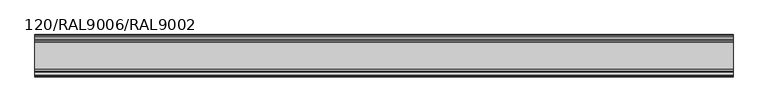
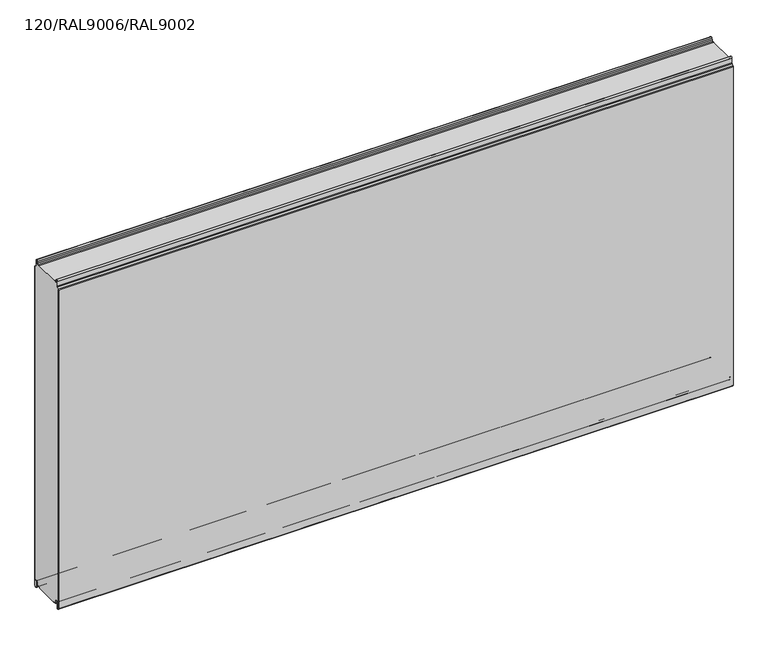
"""IFC4 building model written with IfcOpenShell, lengths in millimetres: plate geometry, TR_C_H_FTV_Panel : 120/RAL9006/RAL9002."""

import ifcopenshell
import ifcopenshell.guid

model = None  # the IFC model being written
_history = None  # IfcOwnerHistory: only IFC2X3 demands one
_inside = {}  # id of a spatial element -> (the spatial element, [elements in it])
_under = {}  # id of a project, library or spatial element -> (it, [spatial elements below it])
_declared = {}  # id of a project -> (the project, [libraries it declares])
_typed = {}  # id of a type object -> (the type object, [elements of that type])
_made_of = {}  # id of a material, layer set ... -> (it, [elements and type objects made of it])


def new_model(schema):
    """Start an empty IFC model of exactly this schema.

    Asked for "IFC4X3", IfcOpenShell would pick the latest addendum, in which some entities
    have other attributes; the version numbers below select the first issue.
    IFC2X3 requires an IfcOwnerHistory on every rooted entity: one is made here for all.
    """
    global model, _history
    if schema == "IFC4X3":
        model = ifcopenshell.file(schema_version=(4, 3, 0, 0))
    else:
        model = ifcopenshell.file(schema=schema)
    _inside.clear()
    _under.clear()
    _declared.clear()
    _typed.clear()
    _made_of.clear()
    _history = None
    if model.schema == "IFC2X3":
        org = make("IfcOrganization", Name="unknown")
        user = make(
            "IfcPersonAndOrganization",
            ThePerson=make("IfcPerson", FamilyName="unknown"),
            TheOrganization=org,
        )
        app = make(
            "IfcApplication",
            ApplicationDeveloper=org,
            Version="unknown",
            ApplicationFullName="unknown",
            ApplicationIdentifier="unknown",
        )
        _history = make(
            "IfcOwnerHistory",
            OwningUser=user,
            OwningApplication=app,
            ChangeAction="ADDED",
            CreationDate=0,
        )
    return model


def make(cls, **values):
    """One entity of the class cls with the attributes given. An attribute that is None is left unset."""
    return model.create_entity(
        cls, **{name: value for name, value in values.items() if value is not None}
    )


def rooted(cls, **values):
    """An entity with a GlobalId (a new one), such as an element, a storey or a relation."""
    return make(cls, GlobalId=ifcopenshell.guid.new(), OwnerHistory=_history, **values)


def si_unit(unit_type, name, prefix=None):
    """IfcSIUnit, for example si_unit("LENGTHUNIT", "METRE", prefix="MILLI")."""
    return make("IfcSIUnit", UnitType=unit_type, Prefix=prefix, Name=name)


def assignment(units):
    """IfcUnitAssignment: the units of a project."""
    return None if units is None else make("IfcUnitAssignment", Units=units)


def point(xyz):
    """IfcCartesianPoint."""
    return None if xyz is None else make("IfcCartesianPoint", Coordinates=xyz)


def direction(xyz):
    """IfcDirection."""
    return None if xyz is None else make("IfcDirection", DirectionRatios=xyz)


def frame(location, z_axis=None, x_axis=None):
    """IfcAxis2Placement3D, a coordinate frame: its origin and axes. An axis left out is left unset."""
    return make(
        "IfcAxis2Placement3D",
        Location=point(location),
        Axis=direction(z_axis),
        RefDirection=direction(x_axis),
    )


def frame_2d(location, x_axis=None):
    """IfcAxis2Placement2D, a coordinate frame in the plane: its origin and x axis."""
    return make(
        "IfcAxis2Placement2D", Location=point(location), RefDirection=direction(x_axis)
    )


def origin():
    """The frame at (0, 0, 0) with its axes left unset."""
    return frame((0.0, 0.0, 0.0))


def place(relative_to, where):
    """IfcLocalPlacement: puts the frame where relative to a parent placement (None: the world)."""
    return make(
        "IfcLocalPlacement", PlacementRelTo=relative_to, RelativePlacement=where
    )


def context(
    kind, dimensions, precision=None, world=None, true_north=None, identifier=None
):
    """IfcGeometricRepresentationContext, for example the 3D "Model" context."""
    return make(
        "IfcGeometricRepresentationContext",
        ContextIdentifier=identifier,
        ContextType=kind,
        CoordinateSpaceDimension=dimensions,
        Precision=precision,
        WorldCoordinateSystem=world,
        TrueNorth=true_north,
    )


def project(units=None, contexts=None):
    """IfcProject with its units and contexts."""
    return rooted(
        "IfcProject",
        Name="project",
        RepresentationContexts=contexts,
        UnitsInContext=assignment(units),
    )


def spatial(cls, under=None, at=None, **own):
    """A site, building, storey or space (cls), placed at a placement, below another one or the project."""
    s = rooted(cls, ObjectPlacement=at, **own)
    if under is not None:
        _under.setdefault(under.id(), (under, []))[1].append(s)
    return s


def polyline(points):
    """IfcPolyline through the points."""
    return make("IfcPolyline", Points=[point(p) for p in points])


def circle_curve(where, radius):
    """IfcCircle in the frame where."""
    return make("IfcCircle", Position=where, Radius=radius)


def trimmed(basis, trim1, trim2, sense, master):
    """IfcTrimmedCurve: the piece of a basis curve between two trims."""
    return make(
        "IfcTrimmedCurve",
        BasisCurve=basis,
        Trim1=trim1,
        Trim2=trim2,
        SenseAgreement=sense,
        MasterRepresentation=master,
    )


def segment(curve, same_sense, transition):
    """IfcCompositeCurveSegment."""
    return make(
        "IfcCompositeCurveSegment",
        Transition=transition,
        SameSense=same_sense,
        ParentCurve=curve,
    )


def composite_curve(segments, self_intersect=None):
    """IfcCompositeCurve: segments joined end to end."""
    return make("IfcCompositeCurve", Segments=segments, SelfIntersect=self_intersect)


def outline(outer, holes=None, kind="AREA"):
    """IfcArbitraryClosedProfileDef: a profile drawn as a closed curve; with holes, ...WithVoids."""
    if holes is None:
        return make("IfcArbitraryClosedProfileDef", ProfileType=kind, OuterCurve=outer)
    return make(
        "IfcArbitraryProfileDefWithVoids",
        ProfileType=kind,
        OuterCurve=outer,
        InnerCurves=holes,
    )


def extrude(swept, where, along, depth):
    """IfcExtrudedAreaSolid: the profile swept, set in the frame where, extruded along a direction by depth."""
    return make(
        "IfcExtrudedAreaSolid",
        SweptArea=swept,
        Position=where,
        ExtrudedDirection=direction(along),
        Depth=depth,
    )


def shape(context_of_items, identifier, shape_type, items):
    """IfcShapeRepresentation: the items that make up one representation, for example the "Body"."""
    return make(
        "IfcShapeRepresentation",
        ContextOfItems=context_of_items,
        RepresentationIdentifier=identifier,
        RepresentationType=shape_type,
        Items=items,
    )


def source(mapping_origin, context_of_items, identifier, shape_type, items):
    """IfcRepresentationMap: a shape defined once, which mapped items show again and again."""
    return make(
        "IfcRepresentationMap",
        MappingOrigin=mapping_origin,
        MappedRepresentation=shape(context_of_items, identifier, shape_type, items),
    )


def transform(
    local_origin,
    x_axis=None,
    y_axis=None,
    z_axis=None,
    scale=None,
    scale2=None,
    scale3=None,
    uniform=True,
):
    """IfcCartesianTransformationOperator3D, or its non-uniform kind. x_axis, y_axis, z_axis: its Axis1, 2, 3."""
    if uniform:
        return make(
            "IfcCartesianTransformationOperator3D",
            Axis1=direction(x_axis),
            Axis2=direction(y_axis),
            LocalOrigin=point(local_origin),
            Scale=scale,
            Axis3=direction(z_axis),
        )
    return make(
        "IfcCartesianTransformationOperator3DnonUniform",
        Axis1=direction(x_axis),
        Axis2=direction(y_axis),
        LocalOrigin=point(local_origin),
        Scale=scale,
        Axis3=direction(z_axis),
        Scale2=scale2,
        Scale3=scale3,
    )


def mapped(mapping_source, mapping_target):
    """IfcMappedItem: shows the shape of a source again, moved by a transform."""
    return make(
        "IfcMappedItem", MappingSource=mapping_source, MappingTarget=mapping_target
    )


def made_of(thing, what):
    """Note that an element or type object is made of a material, layer set ...; save() writes the relation."""
    if what is not None:
        _made_of.setdefault(what.id(), (what, []))[1].append(thing)
    return thing


def element(
    cls,
    number,
    at=None,
    inside=None,
    cuts=None,
    type_object=None,
    material=None,
    context=None,
    identifier="Body",
    shape_type=None,
    held_by="IfcProductDefinitionShape",
    body=None,
    shapes=None,
    **own,
):
    """One element of the class cls, such as IfcWall. Its Tag is "e" and its number.

    at: its placement. inside: the storey or other place that contains it. cuts: it is an
    opening in that element (IfcRelVoidsElement). A single representation is given by context,
    identifier, shape_type and body (its items); several are given by shapes. held_by: the class
    of the entity that holds the representations. save() writes the other relations.
    """
    e = rooted(cls, Tag="e%d" % number, ObjectPlacement=at, **own)
    if body is not None:
        shapes = [shape(context, identifier, shape_type, body)]
    if shapes is not None:
        e.Representation = make(held_by, Representations=shapes)
    if inside is not None:
        _inside.setdefault(inside.id(), (inside, []))[1].append(e)
    if cuts is not None:
        rooted(
            "IfcRelVoidsElement", RelatingBuildingElement=cuts, RelatedOpeningElement=e
        )
    if type_object is not None:
        _typed.setdefault(type_object.id(), (type_object, []))[1].append(e)
    return made_of(e, material)


def aggregate(whole, parts):
    """IfcRelAggregates: a whole, such as a stair, and the parts it consists of."""
    return rooted("IfcRelAggregates", RelatingObject=whole, RelatedObjects=parts)


def save(model, path):
    """Write the relations noted so far, then the file.

    IfcRelAggregates (storeys below a building ...), IfcRelContainedInSpatialStructure (elements
    in a storey), IfcRelDefinesByType, IfcRelAssociatesMaterial and IfcRelDeclares: one each for
    every whole, place, type object, material and project.
    """
    for whole, parts in _under.values():
        aggregate(whole, parts)
    for where, things in _inside.values():
        rooted(
            "IfcRelContainedInSpatialStructure",
            RelatedElements=things,
            RelatingStructure=where,
        )
    for kind, things in _typed.values():
        rooted("IfcRelDefinesByType", RelatedObjects=things, RelatingType=kind)
    for what, things in _made_of.values():
        rooted("IfcRelAssociatesMaterial", RelatedObjects=things, RelatingMaterial=what)
    for by, libraries in _declared.values():
        rooted("IfcRelDeclares", RelatingContext=by, RelatedDefinitions=libraries)
    model.write(path)


def plate_120_ral9006_ral9002_44e4d69d(model_context):
    return source(origin(), model_context, "Body", "SweptSolid", [
        extrude(outline(composite_curve([segment(polyline([(-0.8, 14.4000012), (-9.45, 14.4000012)]), True, "CONTINUOUS"), segment(trimmed(circle_curve(frame_2d((-9.45, 10.1500012)), 4.25), [point((-9.45, 14.4000012))], [point((-13.635433, 10.8880059))], True, "CARTESIAN"), True, "CONTINUOUS"), segment(polyline([(-13.635433, 10.8880059), (-14.7022582, 4.837739)]), True, "CONTINUOUS"), segment(trimmed(circle_curve(frame_2d((-17.6074411, 5.3500012)), 2.95), [point((-14.7022582, 4.837739))], [point((-17.6074411, 2.4000012))], False, "CARTESIAN"), True, "CONTINUOUS"), segment(polyline([(-17.6074411, 2.4000012), (-23.7, 2.4000012), (-23.7, 1.2e-06), (-96.3, 1.2e-06), (-96.3, 2.4000012), (-102.3925589, 2.4000012)]), True, "CONTINUOUS"), segment(trimmed(circle_curve(frame_2d((-102.3925589, 5.3500012)), 2.95), [point((-102.3925589, 2.4000012))], [point((-105.2977418, 4.837739))], False, "CARTESIAN"), True, "CONTINUOUS"), segment(polyline([(-105.2977418, 4.837739), (-106.364567, 10.8880059)]), True, "CONTINUOUS"), segment(trimmed(circle_curve(frame_2d((-110.55, 10.1500012)), 4.25), [point((-106.364567, 10.8880059))], [point((-110.55, 14.4000012))], True, "CARTESIAN"), True, "CONTINUOUS"), segment(polyline([(-110.55, 14.4000012), (-119.2, 14.4000012), (-119.2, 984.3218266)]), True, "CONTINUOUS"), segment(trimmed(circle_curve(frame_2d((-117.0, 984.3218266)), 2.2), [point((-119.2, 984.3218266))], [point((-118.5556349, 985.8774615))], False, "CARTESIAN"), True, "CONTINUOUS"), segment(polyline([(-118.5556349, 985.8774615), (-114.1665476, 990.2665488)]), True, "CONTINUOUS"), segment(trimmed(circle_curve(frame_2d((-116.5, 992.6000012)), 3.3), [point((-114.1665476, 990.2665488))], [point((-113.2, 992.6000012))], True, "CARTESIAN"), True, "CONTINUOUS"), segment(polyline([(-113.2, 992.6000012), (-113.2, 1000.0), (-6.8, 1000.0), (-6.8, 992.6000012)]), True, "CONTINUOUS"), segment(trimmed(circle_curve(frame_2d((-3.5, 992.6000012)), 3.3), [point((-6.8, 992.6000012))], [point((-5.8334524, 990.2665488))], True, "CARTESIAN"), True, "CONTINUOUS"), segment(polyline([(-5.8334524, 990.2665488), (-1.4443651, 985.8774615)]), True, "CONTINUOUS"), segment(trimmed(circle_curve(frame_2d((-3.0, 984.3218266)), 2.2), [point((-1.4443651, 985.8774615))], [point((-0.8, 984.3218266))], False, "CARTESIAN"), True, "CONTINUOUS"), segment(polyline([(-0.8, 984.3218266), (-0.8, 14.4000012)]), True, "CONTINUOUS")], self_intersect=False)), frame((-990.0, 0.0, 0.0), z_axis=(1.0, 0.0, 0.0), x_axis=(0.0, 1.0, 0.0)), (0.0, 0.0, 1.0), 1980.0),
        extrude(outline(composite_curve([segment(polyline([(-21.0, 2.4000012), (-17.6074411, 2.4000012)]), True, "CONTINUOUS"), segment(trimmed(circle_curve(frame_2d((-17.6074411, 5.3500012)), 2.95), [point((-17.6074411, 2.4000012))], [point((-14.7022582, 4.837739))], True, "CARTESIAN"), True, "CONTINUOUS"), segment(polyline([(-14.7022582, 4.837739), (-13.635433, 10.8880059)]), True, "CONTINUOUS"), segment(trimmed(circle_curve(frame_2d((-9.45, 10.1500012)), 4.25), [point((-13.635433, 10.8880059))], [point((-5.2, 10.1500012))], False, "CARTESIAN"), True, "CONTINUOUS"), segment(polyline([(-5.2, 10.1500012), (-5.2, -7.4499988)]), True, "CONTINUOUS"), segment(trimmed(circle_curve(frame_2d((-4.05, -7.4499988)), 1.15), [point((-5.2, -7.4499988))], [point((-3.2368272, -8.2631716))], True, "CARTESIAN"), True, "CONTINUOUS"), segment(polyline([(-3.2368272, -8.2631716), (-1.3711418, -6.3974862)]), True, "CONTINUOUS"), segment(trimmed(circle_curve(frame_2d((-2.75, -5.018628)), 1.95), [point((-1.3711418, -6.3974862))], [point((-0.8, -5.018628))], True, "CARTESIAN"), True, "CONTINUOUS"), segment(polyline([(-0.8, -5.018628), (-0.8, 984.3218266)]), True, "CONTINUOUS"), segment(trimmed(circle_curve(frame_2d((-3.0, 984.3218266)), 2.2), [point((-0.8, 984.3218266))], [point((-1.4443651, 985.8774615))], True, "CARTESIAN"), True, "CONTINUOUS"), segment(polyline([(-1.4443651, 985.8774615), (-5.8334524, 990.2665488)]), True, "CONTINUOUS"), segment(trimmed(circle_curve(frame_2d((-3.5, 992.6000012)), 3.3), [point((-5.8334524, 990.2665488))], [point((-6.8, 992.6000012))], False, "CARTESIAN"), True, "CONTINUOUS"), segment(polyline([(-6.8, 992.6000012), (-6.8, 1007.3500012)]), True, "CONTINUOUS"), segment(trimmed(circle_curve(frame_2d((-9.25, 1007.3500012)), 2.45), [point((-6.8, 1007.3500012))], [point((-11.662779, 1007.7754392))], True, "CARTESIAN"), True, "CONTINUOUS"), segment(polyline([(-11.662779, 1007.7754392), (-12.4060919, 1003.559902)]), True, "CONTINUOUS"), segment(trimmed(circle_curve(frame_2d((-16.8869672, 1004.3500012)), 4.55), [point((-12.4060919, 1003.559902))], [point((-16.8869672, 999.8000012))], False, "CARTESIAN"), True, "CONTINUOUS"), segment(polyline([(-16.8869672, 999.8000012), (-21.0, 999.8000012), (-21.0, 1000.6000012), (-16.8869672, 1000.6000012)]), True, "CONTINUOUS"), segment(trimmed(circle_curve(frame_2d((-16.8869672, 1004.3500012)), 3.75), [point((-16.8869672, 1000.6000012))], [point((-13.1939382, 1003.6988205))], True, "CARTESIAN"), True, "CONTINUOUS"), segment(polyline([(-13.1939382, 1003.6988205), (-12.4506252, 1007.9143577)]), True, "CONTINUOUS"), segment(trimmed(circle_curve(frame_2d((-9.25, 1007.3500012)), 3.25), [point((-12.4506252, 1007.9143577))], [point((-6.0, 1007.3500012))], False, "CARTESIAN"), True, "CONTINUOUS"), segment(polyline([(-6.0, 1007.3500012), (-6.0, 992.6000012)]), True, "CONTINUOUS"), segment(trimmed(circle_curve(frame_2d((-3.5, 992.6000012)), 2.5), [point((-6.0, 992.6000012))], [point((-5.267767, 990.8322342))], True, "CARTESIAN"), True, "CONTINUOUS"), segment(polyline([(-5.267767, 990.8322342), (-0.8786797, 986.4431469)]), True, "CONTINUOUS"), segment(trimmed(circle_curve(frame_2d((-3.0, 984.3218266)), 3.0), [point((-0.8786797, 986.4431469))], [point((0.0, 984.3218266))], False, "CARTESIAN"), True, "CONTINUOUS"), segment(polyline([(0.0, 984.3218266), (0.0, -5.018628)]), True, "CONTINUOUS"), segment(trimmed(circle_curve(frame_2d((-2.75, -5.018628)), 2.75), [point((0.0, -5.018628))], [point((-0.8054564, -6.9631716))], False, "CARTESIAN"), True, "CONTINUOUS"), segment(polyline([(-0.8054564, -6.9631716), (-2.6711418, -8.8288571)]), True, "CONTINUOUS"), segment(trimmed(circle_curve(frame_2d((-4.05, -7.4499988)), 1.95), [point((-2.6711418, -8.8288571))], [point((-6.0, -7.4499988))], False, "CARTESIAN"), True, "CONTINUOUS"), segment(polyline([(-6.0, -7.4499988), (-6.0, 10.1500012)]), True, "CONTINUOUS"), segment(trimmed(circle_curve(frame_2d((-9.45, 10.1500012)), 3.45), [point((-6.0, 10.1500012))], [point((-12.8475867, 10.7490874))], True, "CARTESIAN"), True, "CONTINUOUS"), segment(polyline([(-12.8475867, 10.7490874), (-13.914412, 4.6988205)]), True, "CONTINUOUS"), segment(trimmed(circle_curve(frame_2d((-17.6074411, 5.3500012)), 3.75), [point((-13.914412, 4.6988205))], [point((-17.6074411, 1.6000012))], False, "CARTESIAN"), True, "CONTINUOUS"), segment(polyline([(-17.6074411, 1.6000012), (-21.0, 1.6000012), (-21.0, 2.4000012)]), True, "CONTINUOUS")], self_intersect=False)), frame((-990.0, 0.0, 0.0), z_axis=(1.0, 0.0, 0.0), x_axis=(0.0, 1.0, 0.0)), (0.0, 0.0, 1.0), 1980.0),
        extrude(outline(composite_curve([segment(trimmed(circle_curve(frame_2d((-103.1130328, 1004.3500012)), 4.55), [point((-103.1130328, 999.8000012))], [point((-107.5939081, 1003.559902))], False, "CARTESIAN"), True, "CONTINUOUS"), segment(polyline([(-107.5939081, 1003.559902), (-108.337221, 1007.7754392)]), True, "CONTINUOUS"), segment(trimmed(circle_curve(frame_2d((-110.75, 1007.3500012)), 2.45), [point((-108.337221, 1007.7754392))], [point((-113.2, 1007.3500012))], True, "CARTESIAN"), True, "CONTINUOUS"), segment(polyline([(-113.2, 1007.3500012), (-113.2, 992.6000012)]), True, "CONTINUOUS"), segment(trimmed(circle_curve(frame_2d((-116.5, 992.6000012)), 3.3), [point((-113.2, 992.6000012))], [point((-114.1665476, 990.2665488))], False, "CARTESIAN"), True, "CONTINUOUS"), segment(polyline([(-114.1665476, 990.2665488), (-118.5556349, 985.8774615)]), True, "CONTINUOUS"), segment(trimmed(circle_curve(frame_2d((-117.0, 984.3218266)), 2.2), [point((-118.5556349, 985.8774615))], [point((-119.2, 984.3218266))], True, "CARTESIAN"), True, "CONTINUOUS"), segment(polyline([(-119.2, 984.3218266), (-119.2, -5.018628)]), True, "CONTINUOUS"), segment(trimmed(circle_curve(frame_2d((-117.25, -5.018628)), 1.95), [point((-119.2, -5.018628))], [point((-118.6288582, -6.3974862))], True, "CARTESIAN"), True, "CONTINUOUS"), segment(polyline([(-118.6288582, -6.3974862), (-116.7631728, -8.2631716)]), True, "CONTINUOUS"), segment(trimmed(circle_curve(frame_2d((-115.95, -7.4499988)), 1.15), [point((-116.7631728, -8.2631716))], [point((-114.8, -7.4499988))], True, "CARTESIAN"), True, "CONTINUOUS"), segment(polyline([(-114.8, -7.4499988), (-114.8, 10.1500012)]), True, "CONTINUOUS"), segment(trimmed(circle_curve(frame_2d((-110.55, 10.1500012)), 4.25), [point((-114.8, 10.1500012))], [point((-106.364567, 10.8880059))], False, "CARTESIAN"), True, "CONTINUOUS"), segment(polyline([(-106.364567, 10.8880059), (-105.2977418, 4.837739)]), True, "CONTINUOUS"), segment(trimmed(circle_curve(frame_2d((-102.3925589, 5.3500012)), 2.95), [point((-105.2977418, 4.837739))], [point((-102.3925589, 2.4000012))], True, "CARTESIAN"), True, "CONTINUOUS"), segment(polyline([(-102.3925589, 2.4000012), (-99.0, 2.4000012), (-99.0, 1.6000012), (-102.3925589, 1.6000012)]), True, "CONTINUOUS"), segment(trimmed(circle_curve(frame_2d((-102.3925589, 5.3500012)), 3.75), [point((-102.3925589, 1.6000012))], [point((-106.085588, 4.6988205))], False, "CARTESIAN"), True, "CONTINUOUS"), segment(polyline([(-106.085588, 4.6988205), (-107.1524133, 10.7490874)]), True, "CONTINUOUS"), segment(trimmed(circle_curve(frame_2d((-110.55, 10.1500012)), 3.45), [point((-107.1524133, 10.7490874))], [point((-114.0, 10.1500012))], True, "CARTESIAN"), True, "CONTINUOUS"), segment(polyline([(-114.0, 10.1500012), (-114.0, -7.4499988)]), True, "CONTINUOUS"), segment(trimmed(circle_curve(frame_2d((-115.95, -7.4499988)), 1.95), [point((-114.0, -7.4499988))], [point((-117.3288582, -8.8288571))], False, "CARTESIAN"), True, "CONTINUOUS"), segment(polyline([(-117.3288582, -8.8288571), (-119.1945436, -6.9631716)]), True, "CONTINUOUS"), segment(trimmed(circle_curve(frame_2d((-117.25, -5.018628)), 2.75), [point((-119.1945436, -6.9631716))], [point((-120.0, -5.018628))], False, "CARTESIAN"), True, "CONTINUOUS"), segment(polyline([(-120.0, -5.018628), (-120.0, 984.3218266)]), True, "CONTINUOUS"), segment(trimmed(circle_curve(frame_2d((-117.0, 984.3218266)), 3.0), [point((-120.0, 984.3218266))], [point((-119.1213203, 986.4431469))], False, "CARTESIAN"), True, "CONTINUOUS"), segment(polyline([(-119.1213203, 986.4431469), (-114.732233, 990.8322342)]), True, "CONTINUOUS"), segment(trimmed(circle_curve(frame_2d((-116.5, 992.6000012)), 2.5), [point((-114.732233, 990.8322342))], [point((-114.0, 992.6000012))], True, "CARTESIAN"), True, "CONTINUOUS"), segment(polyline([(-114.0, 992.6000012), (-114.0, 1007.3500012)]), True, "CONTINUOUS"), segment(trimmed(circle_curve(frame_2d((-110.75, 1007.3500012)), 3.25), [point((-114.0, 1007.3500012))], [point((-107.5493748, 1007.9143577))], False, "CARTESIAN"), True, "CONTINUOUS"), segment(polyline([(-107.5493748, 1007.9143577), (-106.8060618, 1003.6988205)]), True, "CONTINUOUS"), segment(trimmed(circle_curve(frame_2d((-103.1130328, 1004.3500012)), 3.75), [point((-106.8060618, 1003.6988205))], [point((-103.1130328, 1000.6000012))], True, "CARTESIAN"), True, "CONTINUOUS"), segment(polyline([(-103.1130328, 1000.6000012), (-99.0, 1000.6000012), (-99.0, 999.8000012), (-103.1130328, 999.8000012)]), True, "CONTINUOUS")], self_intersect=False)), frame((-990.0, 0.0, 0.0), z_axis=(1.0, 0.0, 0.0), x_axis=(0.0, 1.0, 0.0)), (0.0, 0.0, 1.0), 1980.0),
    ])


if __name__ == "__main__":
    model = new_model("IFC4")
    model_context = context("Model", 3, world=origin())
    ifc_project = project(units=[si_unit("LENGTHUNIT", "METRE", prefix="MILLI")], contexts=[model_context])
    site = spatial("IfcSite", under=ifc_project)
    building = spatial("IfcBuilding", under=site)
    placement = place(None, origin())
    plate_120_ral9006_ral9002_shape = plate_120_ral9006_ral9002_44e4d69d(model_context)
    element("IfcPlate", 1, ObjectType="TR_C_H_FTV_Panel : 120/RAL9006/RAL9002", at=placement, inside=building, context=model_context, shape_type="MappedRepresentation", body=[
        mapped(plate_120_ral9006_ral9002_shape, transform((0.0, 0.0, 0.0), x_axis=(1.0, 0.0, 0.0), y_axis=(0.0, 1.0, 0.0), z_axis=(0.0, 0.0, 1.0))),
    ])
    save(model, "model.ifc")
